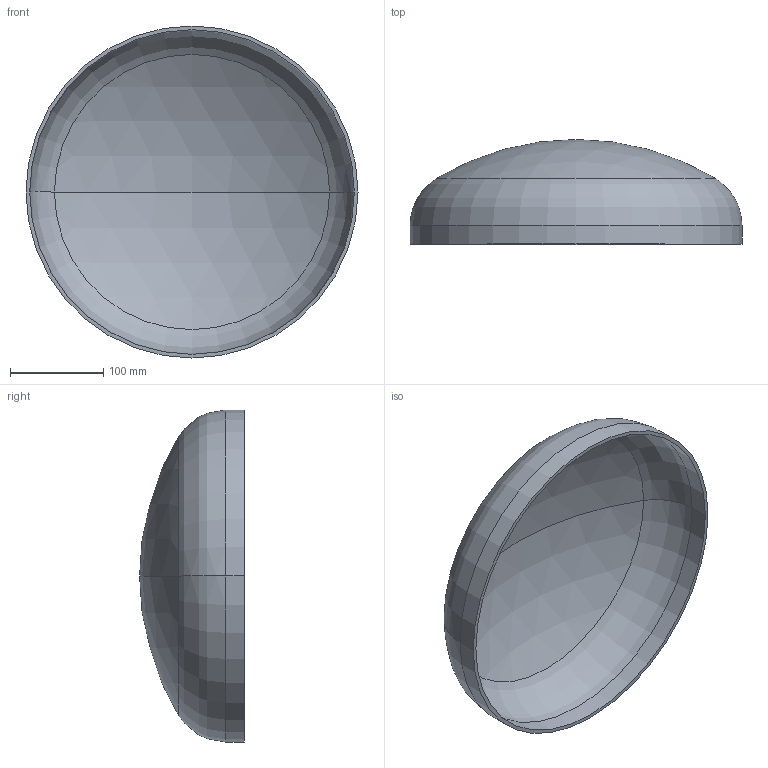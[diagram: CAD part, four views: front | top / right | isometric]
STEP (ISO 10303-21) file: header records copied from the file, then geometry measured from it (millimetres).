
FILE_DESCRIPTION (( 'STEP AP203' ), '1' );
FILE_NAME ('DIN 28013 Korbbogenform_-_Boden DIN 28013 - 355,6 x 20 - I - s=4.step', '2016-07-01T07:46:03', ( '' ), ( '' ), 'SwSTEP 2.0', 'SolidWorks 2013', '' );
FILE_SCHEMA (( 'CONFIG_CONTROL_DESIGN' ));
Length unit declared in the file: millimetre
Products named in the file (1): DIN 28013 Korbbogenform_-_Boden DIN 28013 - 355,6 x 20 - I - s=4
Bounding box: 355.6 x 112.23 x 355.6 mm (x, y, z)
Volume: 630987.4 mm3; surface area: 319945.4 mm2
Topology: 1 solids, 1 shells, 13 faces, 24 edges, 14 vertices
Faces by surface type: torus 4, cylinder 4, sphere 4, plane 1
Entity records: 407 total; most frequent: DIRECTION 72, CARTESIAN_POINT 52, ORIENTED_EDGE 48, AXIS2_PLACEMENT_3D 34, EDGE_CURVE 24, CIRCLE 20, EDGE_LOOP 14, VERTEX_POINT 14
